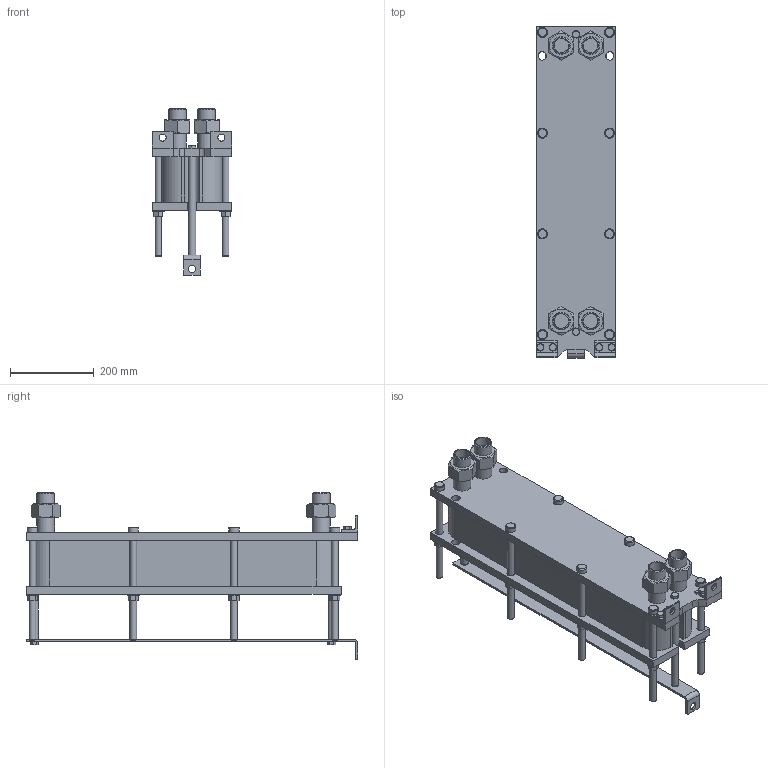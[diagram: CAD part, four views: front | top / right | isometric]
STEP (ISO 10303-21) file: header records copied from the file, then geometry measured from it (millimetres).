
FILE_DESCRIPTION(/* description */ (''),/* implementation_level */ '2;1');
FILE_NAME(/* name */ 'C:\Users\zhuro\Desktop\ENCO\TO\ЭН-008\ЭН-0,5-008-35-1.stp',/* time_stamp */ '2022-06-06T10:47:45+03:00',/* author */ ('zhuro'),/* organization */ (''),/* preprocessor_version */ 'ST-DEVELOPER v18.1',/* originating_system */ 'Autodesk Inventor 2022',/* authorisation */ '');
FILE_SCHEMA (('AUTOMOTIVE_DESIGN { 1 0 10303 214 3 1 1 }'));
Length unit declared in the file: millimetre
Products named in the file (1): ЭН-0,5-008-35-1
Bounding box: 190 x 790 x 397 mm (x, y, z)
Volume: 17757079.2 mm3; surface area: 1471700.8 mm2
Topology: 40 solids, 40 shells, 428 faces, 924 edges, 606 vertices
Faces by surface type: plane 273, cylinder 109, cone 40, torus 6
Full cylindrical faces by diameter (mm): 12 x6, 14 x2, 16 x20, 17 x8, 18 x19, 20 x5, 24 x8, 28 x8, 34.3 x8, 42.3 x8
Entity records: 15843 total; most frequent: CARTESIAN_POINT 5991, DIRECTION 1984, ORIENTED_EDGE 1848, EDGE_CURVE 924, AXIS2_PLACEMENT_3D 715, VERTEX_POINT 606, LINE 554, VECTOR 554
